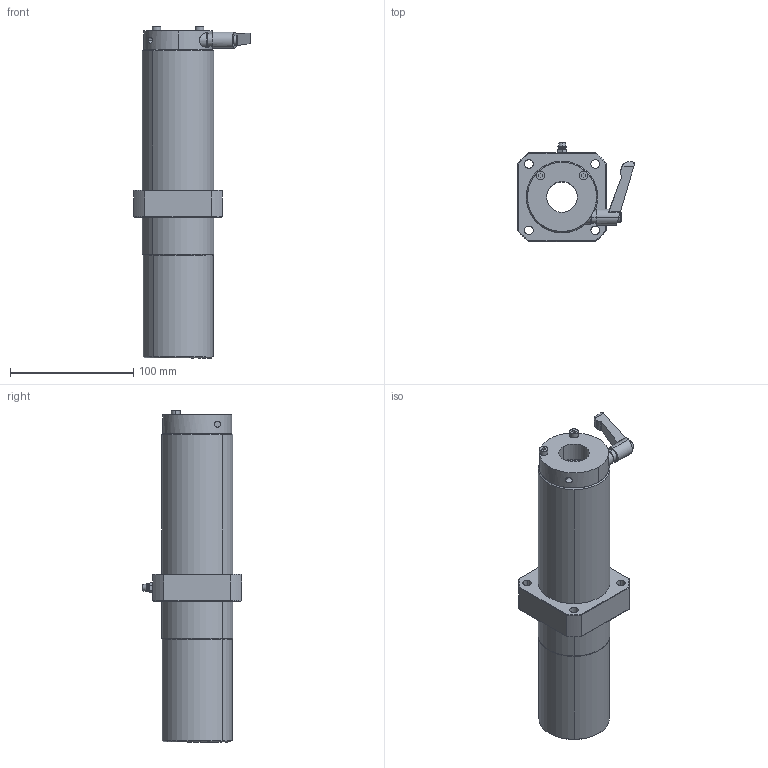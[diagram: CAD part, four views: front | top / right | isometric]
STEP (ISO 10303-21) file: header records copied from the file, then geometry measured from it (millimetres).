
FILE_DESCRIPTION (( 'STEP AP214' ), '1' );
FILE_NAME ('LFWLC25-C.STEP', '2023-06-27T02:51:53', ( '' ), ( '' ), 'SwSTEP 2.0', 'SolidWorks 2019', '' );
FILE_SCHEMA (( 'AUTOMOTIVE_DESIGN' ));
Length unit declared in the file: millimetre
Products named in the file (3): LFWLC25; “ÁSCK2515CO-S4.5; LFWLC25-C
Assembly tree (2 placements, depth 2):
  LFWLC25-C
    LFWLC25
    “ÁSCK2515CO-S4.5
Bounding box: 94.6 x 80.4 x 269 mm (x, y, z)
Volume: 607665.7 mm3; surface area: 97698.8 mm2
Topology: 3 solids, 9 shells, 264 faces, 651 edges, 403 vertices
Faces by surface type: cylinder 87, plane 80, bspline 47, cone 38, torus 8, sphere 4
Entity records: 11724 total; most frequent: CARTESIAN_POINT 2469, DIRECTION 1361, ORIENTED_EDGE 1298, EDGE_CURVE 649, AXIS2_PLACEMENT_3D 568, VERTEX_POINT 402, CIRCLE 346, EDGE_LOOP 311
